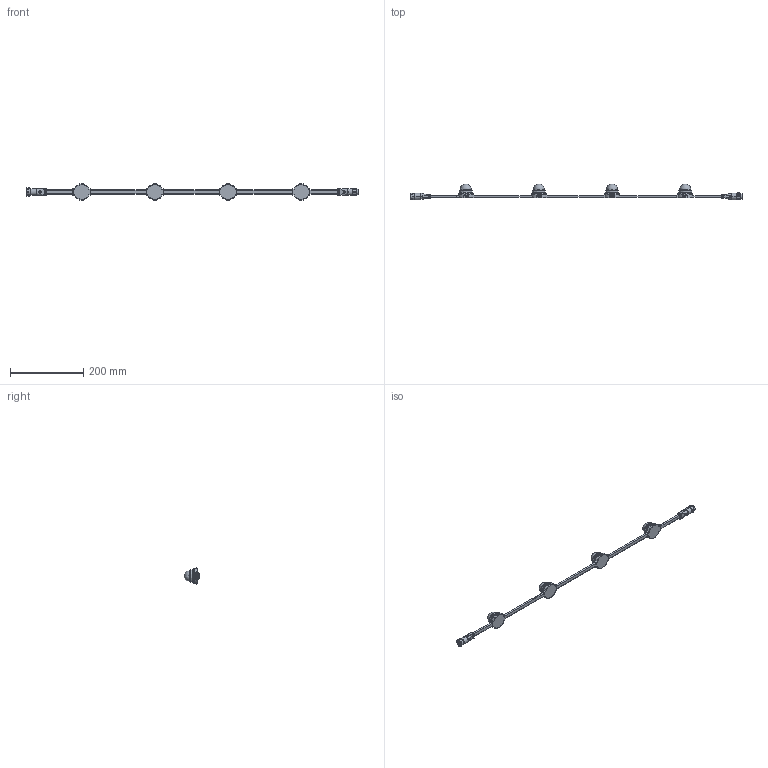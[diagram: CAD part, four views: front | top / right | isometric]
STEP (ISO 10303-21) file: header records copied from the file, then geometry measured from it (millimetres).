
FILE_DESCRIPTION (( 'STEP AP214' ), '1' );
FILE_NAME ('DiGi XT3 & 6 - Dome.STEP', '2025-11-13T13:06:56', ( '' ), ( '' ), 'SwSTEP 2.0', 'SolidWorks 2025', '' );
FILE_SCHEMA (( 'AUTOMOTIVE_DESIGN' ));
Length unit declared in the file: millimetre
Products named in the file (6): M16 5p Flat mold - Female; DiGi XT3 & 6 - Dome; DiGi Module XT3 & 6 - Cover - Dome; DiGi Module XT3 & 6 - Body_XT3 RGBW; Part9^DiGi XT3 & 6; M16 5p Flat mold - Male
Assembly tree (11 placements, depth 2):
  DiGi XT3 & 6 - Dome
    DiGi Module XT3 & 6 - Body_XT3 RGBW  x4
    Part9^DiGi XT3 & 6
    M16 5p Flat mold - Female
    M16 5p Flat mold - Male
    DiGi Module XT3 & 6 - Cover - Dome  x4
Bounding box: 907.71 x 43.45 x 43.79 mm (x, y, z)
Volume: 164720.9 mm3; surface area: 69756.7 mm2
Topology: 31 solids, 31 shells, 2647 faces, 6290 edges, 3668 vertices
Faces by surface type: bspline 1064, plane 633, cylinder 609, cone 200, sphere 86, torus 55
Full cylindrical faces by diameter (mm): 9.2 x1, 11.1 x1, 11.8 x1, 14.25 x1, 14.8 x1, 15.2 x1, 26.6 x4, 30 x4, 31.6 x4, 32 x4, 42 x4
Entity records: 94440 total; most frequent: CARTESIAN_POINT 53205, ORIENTED_EDGE 6174, DIRECTION 4426, EDGE_CURVE 3087, VERTEX_POINT 1857, AXIS2_PLACEMENT_3D 1740, EDGE_LOOP 1422, UNCERTAINTY_MEASURE_WITH_UNIT 1355
